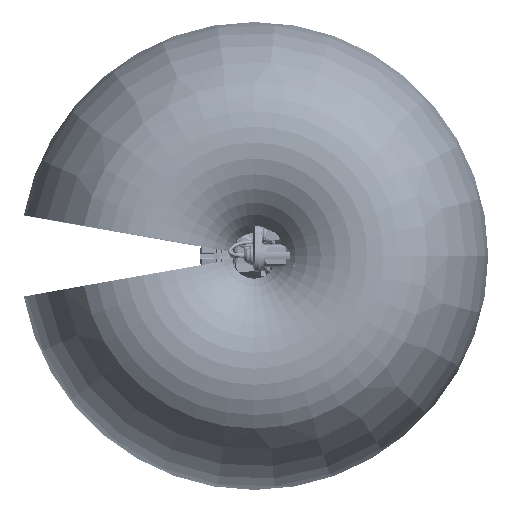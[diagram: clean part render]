
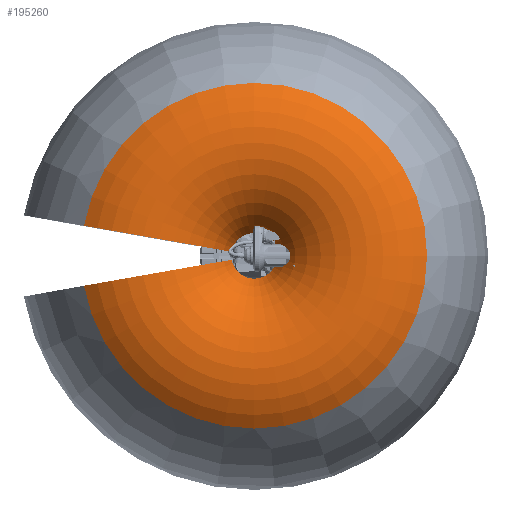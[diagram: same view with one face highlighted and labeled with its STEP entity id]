
A CAD part, top view. The second image highlights one B-rep face of the part: STEP entity #195260.
In plain terms, the highlighted toroidal (fillet/blend) face has major radius 1473.98 mm and minor radius 1295 mm.
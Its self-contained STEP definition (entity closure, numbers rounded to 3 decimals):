
#10997 = DIRECTION ( 'NONE',  ( 0., 0., 1. ) ) ;
#26485 = AXIS2_PLACEMENT_3D ( 'NONE', #46784, #241078, #435249 ) ;
#46784 = CARTESIAN_POINT ( 'NONE',  ( -1451.586, 255.954, 1854.682 ) ) ;
#76109 = AXIS2_PLACEMENT_3D ( 'NONE', #449171, #305916, #595515 ) ;
#84489 = CIRCLE ( 'NONE', #206911, 1295. ) ;
#119718 = CIRCLE ( 'NONE', #475645, 2271.26 ) ;
#124509 = DIRECTION ( 'NONE',  ( -1., 0., 0. ) ) ;
#126340 = CARTESIAN_POINT ( 'NONE',  ( 0., 0., 2875.156 ) ) ;
#162540 = FACE_OUTER_BOUND ( 'NONE', #164176, .T. ) ;
#164176 = EDGE_LOOP ( 'NONE', ( #308646, #181760, #325181, #571658 ) ) ;
#171007 = DIRECTION ( 'NONE',  ( 0., 0., -1. ) ) ;
#180515 = EDGE_CURVE ( 'NONE', #397889, #505431, #589613, .T. ) ;
#181760 = ORIENTED_EDGE ( 'NONE', *, *, #430906, .T. ) ;
#195260 = ADVANCED_FACE ( 'NONE', ( #162540 ), #329811, .T. ) ;
#206187 = VERTEX_POINT ( 'NONE', #325475 ) ;
#206911 = AXIS2_PLACEMENT_3D ( 'NONE', #552167, #447228, #10997 ) ;
#241078 = DIRECTION ( 'NONE',  ( 0.174, 0.985, 0. ) ) ;
#261968 = CARTESIAN_POINT ( 'NONE',  ( -2236.755, 394.4, 2875.156 ) ) ;
#280619 = CIRCLE ( 'NONE', #26485, 1295. ) ;
#290854 = EDGE_CURVE ( 'NONE', #623310, #206187, #119718, .T. ) ;
#305916 = DIRECTION ( 'NONE',  ( 0., 0., -1. ) ) ;
#308646 = ORIENTED_EDGE ( 'NONE', *, *, #290854, .F. ) ;
#325181 = ORIENTED_EDGE ( 'NONE', *, *, #180515, .T. ) ;
#325475 = CARTESIAN_POINT ( 'NONE',  ( -2236.755, -394.4, 2875.156 ) ) ;
#329811 = TOROIDAL_SURFACE ( 'NONE', #76109, 1473.979, 1295. ) ;
#397889 = VERTEX_POINT ( 'NONE', #462102 ) ;
#420521 = DIRECTION ( 'NONE',  ( 0., 0., -1. ) ) ;
#430906 = EDGE_CURVE ( 'NONE', #623310, #397889, #280619, .T. ) ;
#435249 = DIRECTION ( 'NONE',  ( 0., 0., 1. ) ) ;
#447228 = DIRECTION ( 'NONE',  ( -0.174, 0.985, 0. ) ) ;
#449171 = CARTESIAN_POINT ( 'NONE',  ( 0., 0., 1854.682 ) ) ;
#460748 = DIRECTION ( 'NONE',  ( -1., 0., 0. ) ) ;
#461214 = CARTESIAN_POINT ( 'NONE',  ( -295.747, -52.148, 2401.971 ) ) ;
#462102 = CARTESIAN_POINT ( 'NONE',  ( -295.747, 52.148, 2401.971 ) ) ;
#475645 = AXIS2_PLACEMENT_3D ( 'NONE', #126340, #171007, #460748 ) ;
#484759 = EDGE_CURVE ( 'NONE', #206187, #505431, #84489, .T. ) ;
#505431 = VERTEX_POINT ( 'NONE', #461214 ) ;
#538893 = AXIS2_PLACEMENT_3D ( 'NONE', #608322, #420521, #124509 ) ;
#552167 = CARTESIAN_POINT ( 'NONE',  ( -1451.586, -255.954, 1854.682 ) ) ;
#571658 = ORIENTED_EDGE ( 'NONE', *, *, #484759, .F. ) ;
#589613 = CIRCLE ( 'NONE', #538893, 300.309 ) ;
#595515 = DIRECTION ( 'NONE',  ( -1., 0., 0. ) ) ;
#608322 = CARTESIAN_POINT ( 'NONE',  ( 0., 0., 2401.971 ) ) ;
#623310 = VERTEX_POINT ( 'NONE', #261968 ) ;
